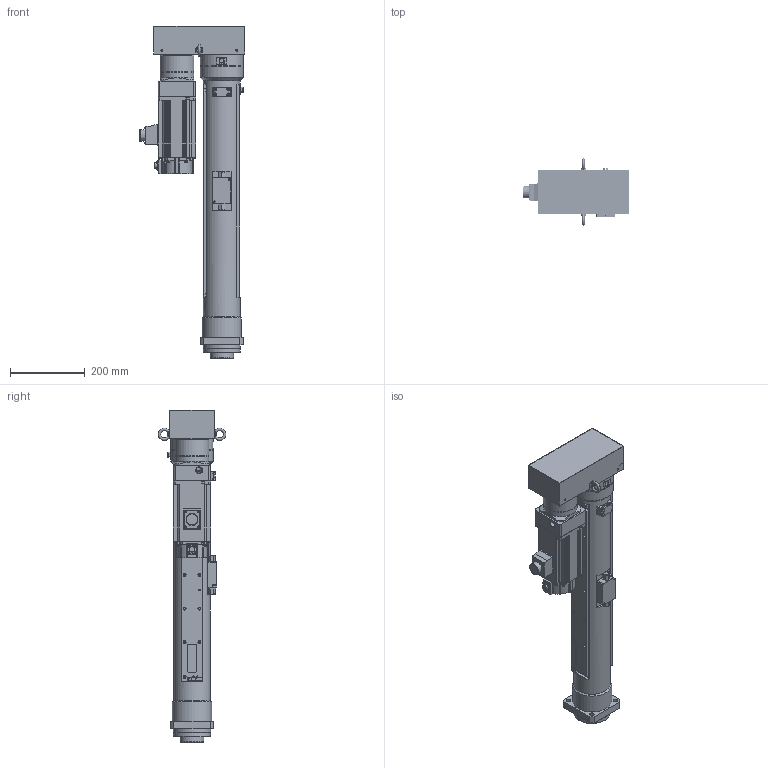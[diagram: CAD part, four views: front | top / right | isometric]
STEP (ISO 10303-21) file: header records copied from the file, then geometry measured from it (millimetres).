
FILE_DESCRIPTION( ('This file contains a STEP AP42 implementation' ,'as created by ZW3D STEP Interface translator.') ,'2;1' );
FILE_NAME( 'OACIS-DC-P020-500-200-A6V200_V20.51.stp' ,'26 414.182222', (''), ('ZWCAD Software Co.'), 'Version 1.0', 'ZW3D to STEP translator', '' );
FILE_SCHEMA(('AUTOMOTIVE_DESIGN { 1 0 10303 214 1 1 1 1 }'));
Length unit declared in the file: millimetre
Products named in the file (1): 0
Bounding box: 282.6 x 180.9 x 888 mm (x, y, z)
Volume: 8739035.7 mm3; surface area: 1437299.5 mm2
Topology: 43 solids, 43 shells, 1848 faces, 4729 edges, 3162 vertices
Faces by surface type: cylinder 762, plane 761, cone 230, torus 69, sphere 16, bspline 10
Full cylindrical faces by diameter (mm): 1.6 x8, 2.459 x5, 2.75 x4, 3.2 x5, 3.3 x100, 4.2 x4, 4.3 x36, 4.5 x4, 5 x32, 5.5 x4, 6.5 x8, 6.6 x8, 6.647 x5, 6.8 x36, 7 x12, 8 x48, 8.4 x8, 8.5 x17, 9 x4, 11 x12, 12 x1, 14.8 x1, 15 x8, 15.5 x2, 16.5 x2, 18 x3, 18.917 x2, 19 x2, 20 x5, 22 x1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
Entity records: 62943 total; most frequent: CARTESIAN_POINT 13301, DIRECTION 10306, ORIENTED_EDGE 9220, EDGE_CURVE 4610, AXIS2_PLACEMENT_3D 3995, VERTEX_POINT 3087, EDGE_LOOP 2355, VECTOR 2316
